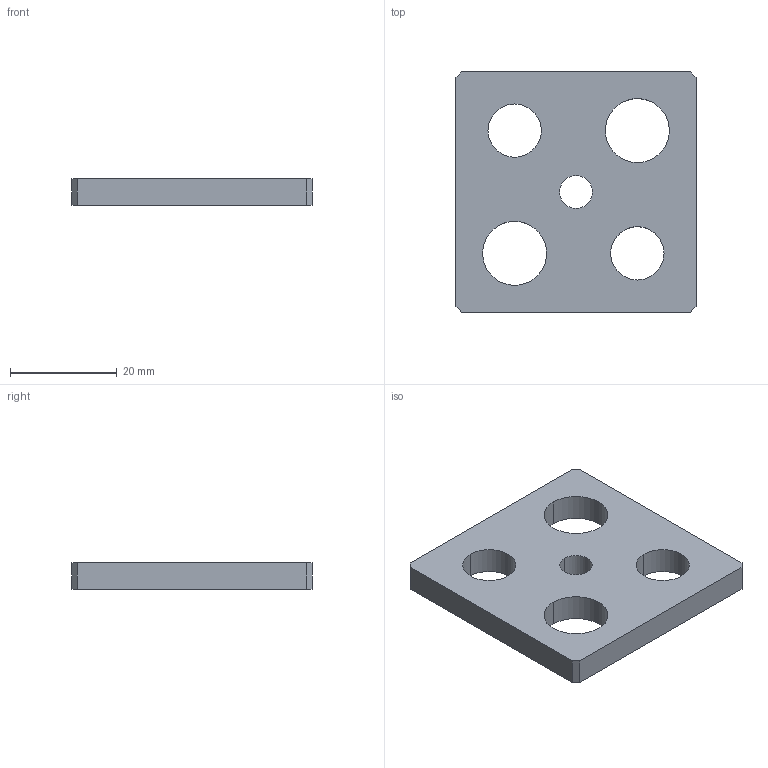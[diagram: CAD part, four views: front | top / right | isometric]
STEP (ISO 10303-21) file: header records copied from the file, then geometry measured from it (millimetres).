
FILE_DESCRIPTION(/* description */ (''),/* implementation_level */ '2;1');
FILE_NAME(/* name */ '3d_mpsp13_04603_r00.stp',/* time_stamp */ '2011-01-10T14:13:29+09:00',/* author */ ('MISUMI'),/* organization */ (''),/* preprocessor_version */ 'ST-DEVELOPER v11',/* originating_system */ 'UGS - NX 5.0',/* authorisation */ '');
FILE_SCHEMA (('CONFIG_CONTROL_DESIGN'));
Length unit declared in the file: millimetre
Products named in the file (1): 3d_mpsp13_04603_r00
Bounding box: 45 x 45 x 5 mm (x, y, z)
Volume: 8047.7 mm3; surface area: 4895.9 mm2
Topology: 1 solids, 1 shells, 20 faces, 54 edges, 36 vertices
Faces by surface type: plane 10, cylinder 10
Entity records: 744 total; most frequent: DIRECTION 116, CARTESIAN_POINT 111, ORIENTED_EDGE 108, EDGE_CURVE 54, AXIS2_PLACEMENT_3D 41, VERTEX_POINT 36, LINE 34, VECTOR 34
